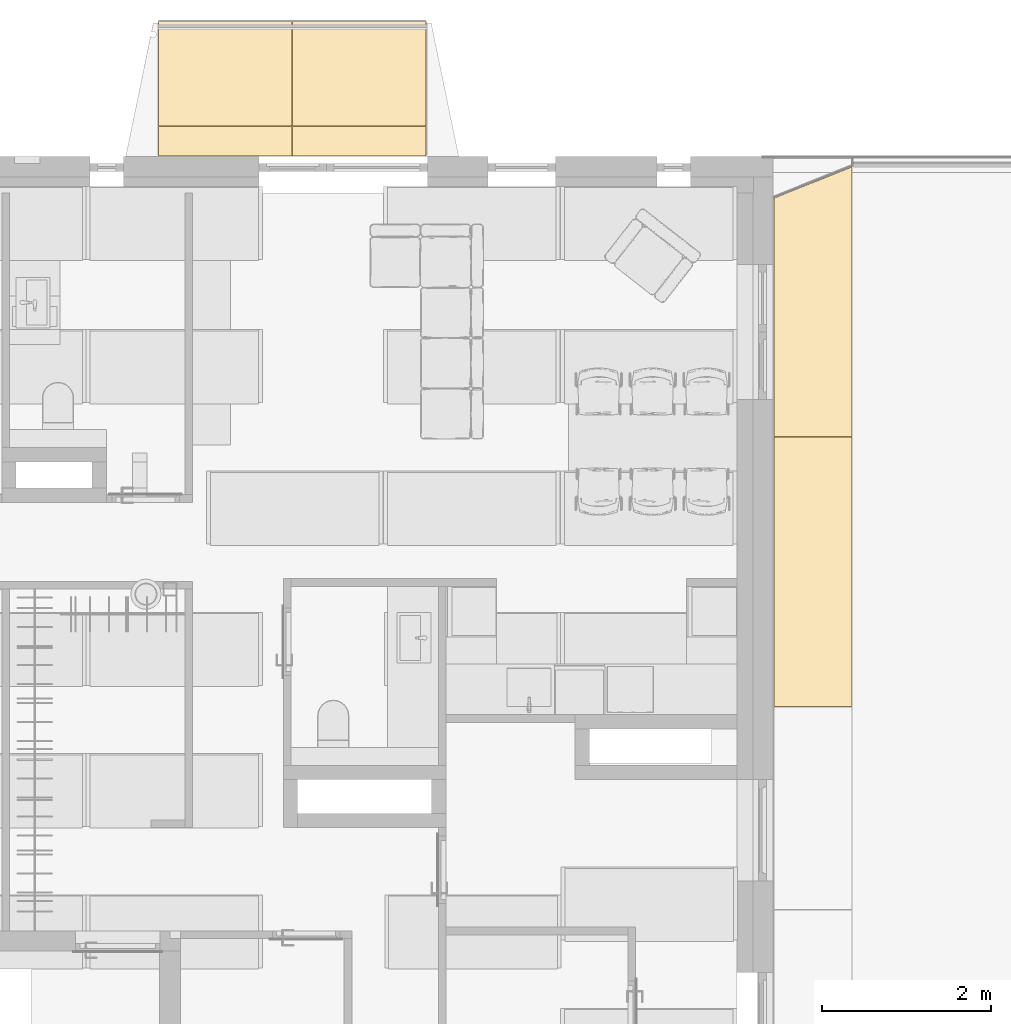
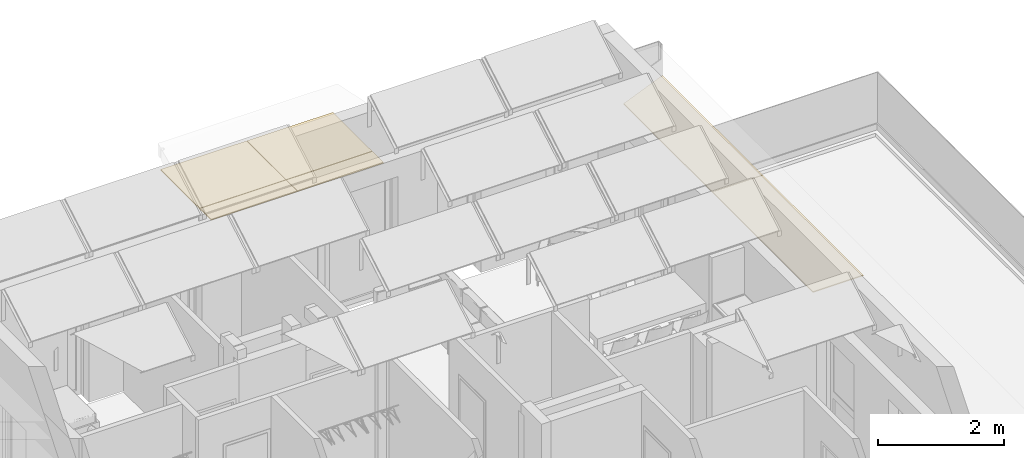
# One storey, part 21 of 57: 6 coverings.
"""IFC2X3 building model written with IfcOpenShell, lengths in millimetres."""

from ifc_helpers import new_model, entity, si_unit, converted_unit, direction, frame, frame_2d, origin, origin_2d_with_axis, place, context, subcontext, project, spatial, polyline, rectangle, outline, extrude, material, layer, layer_set, layer_usage, type_object, element, save


model = new_model("IFC2X3")

# Units and contexts
model_context = context("Model", 3, precision=0.01, world=origin(), true_north=direction((6.123233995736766e-17, 1.0)))
plan_context = context("Plan", 3, precision=0.01, world=origin(), true_north=direction((6.123233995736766e-17, 1.0)))
body_context = subcontext(model_context, "Body", "Model", "MODEL_VIEW")
ifc_project = project(units=[si_unit("LENGTHUNIT", "METRE", prefix="MILLI"), converted_unit("PLANEANGLEUNIT", "DEGREE", entity("IfcPlaneAngleMeasure", 0.017453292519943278), si_unit("PLANEANGLEUNIT", "RADIAN"), dimensions=[0, 0, 0, 0, 0, 0, 0]), si_unit("AREAUNIT", "SQUARE_METRE")], contexts=[model_context, plan_context])

# Site, building, storey
site_placement = place(None, origin())
site = spatial("IfcSite", under=ifc_project, at=site_placement, Name="Default", CompositionType="ELEMENT")
building_placement = place(site_placement, origin())
building = spatial("IfcBuilding", under=site, at=building_placement, CompositionType="ELEMENT")
storey_placement = place(building_placement, frame((0.0, 0.0, 12811.000000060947)))
storey = spatial("IfcBuildingStorey", under=building, at=storey_placement, Name="5K", CompositionType="ELEMENT", Elevation=12811.000000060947)

# Coverings
ifc_material_1 = material(Name="_K. Õhk. Roov. Fassaadikatte alusroov. Horisontaalne. 25 mm")
ifc_layer_1 = layer(ifc_material_1, 16.0)
ifc_material_2 = material(Name="_K. Välisviimistlus. Alumiinium-komposiitplaat")
ifc_layer_2 = layer(ifc_material_2, 4.0)
ifc_layer_set = layer_set([ifc_layer_1, ifc_layer_2], Name="Compound Ceiling:Valge rõdud")
ifc_layer_usage_1 = layer_usage(ifc_layer_set, "AXIS3", "NEGATIVE", 20.0)
covering_type = type_object("IfcCoveringType", Name="Compound Ceiling:Valge rõdud", PredefinedType="CEILING")
covering_1_placement = place(storey_placement, frame((5040.416588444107, 16192.0, 2400.0)))
element("IfcCovering", 1, at=covering_1_placement, inside=storey, type_object=covering_type, material=ifc_layer_usage_1, Name="Compound Ceiling:Valge rõdud", ObjectType="Compound Ceiling:Valge rõdud", PredefinedType="CEILING", context=body_context, shape_type="SweptSolid", body=[
    extrude(rectangle(XDim=1582.2917057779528, YDim=1249.9999999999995, at=frame_2d((-5.684341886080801e-13, -1.1368683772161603e-12), x_axis=(1.0, 0.0))), frame((791.145852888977, 625.0, 0.0)), (0.0, 0.0, 1.0), 19.999999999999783),
])
ifc_layer_usage_2 = layer_usage(ifc_layer_set, "AXIS3", "NEGATIVE", 20.0)
covering_2_placement = place(storey_placement, frame((6627.708294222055, 16192.0, 2400.0)))
element("IfcCovering", 2, at=covering_2_placement, inside=storey, type_object=covering_type, material=ifc_layer_usage_2, Name="Compound Ceiling:Valge rõdud", ObjectType="Compound Ceiling:Valge rõdud", PredefinedType="CEILING", context=body_context, shape_type="SweptSolid", body=[
    extrude(rectangle(XDim=1249.9999999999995, YDim=1582.2917057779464, at=frame_2d((-1.0800249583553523e-12, -5.684341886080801e-13), x_axis=(1.0, 0.0))), frame((791.1458528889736, 625.0, 0.0), z_axis=(0.0, 0.0, 1.0), x_axis=(0.0, 1.0, 0.0)), (0.0, 0.0, 1.0), 19.999999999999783),
])
ifc_layer_usage_3 = layer_usage(ifc_layer_set, "AXIS3", "NEGATIVE", 20.0)
covering_3_placement = place(storey_placement, frame((5040.416588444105, 15838.0, 2400.0)))
element("IfcCovering", 3, at=covering_3_placement, inside=storey, type_object=covering_type, material=ifc_layer_usage_3, Name="Compound Ceiling:Valge rõdud", ObjectType="Compound Ceiling:Valge rõdud", PredefinedType="CEILING", context=body_context, shape_type="SweptSolid", body=[
    extrude(rectangle(XDim=1582.2917057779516, YDim=348.9999999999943, at=origin_2d_with_axis()), frame((791.1458528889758, 174.49999999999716, 0.0)), (0.0, 0.0, 1.0), 19.999999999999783),
])
ifc_layer_usage_4 = layer_usage(ifc_layer_set, "AXIS3", "NEGATIVE", 20.0)
covering_4_placement = place(storey_placement, frame((6627.708294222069, 15838.0, 2400.0)))
element("IfcCovering", 4, at=covering_4_placement, inside=storey, type_object=covering_type, material=ifc_layer_usage_4, Name="Compound Ceiling:Valge rõdud", ObjectType="Compound Ceiling:Valge rõdud", PredefinedType="CEILING", context=body_context, shape_type="SweptSolid", body=[
    extrude(rectangle(XDim=348.9999999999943, YDim=1582.2917057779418, at=frame_2d((-2.1742607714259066e-12, 5.115907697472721e-13), x_axis=(1.0, 0.0))), frame((791.1458528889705, 174.49999999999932, 0.0), z_axis=(0.0, 0.0, 1.0), x_axis=(0.0, 1.0, 0.0)), (0.0, 0.0, 1.0), 19.999999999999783),
])
ifc_layer_usage_5 = layer_usage(ifc_layer_set, "AXIS3", "NEGATIVE", 20.0)
covering_5_placement = place(storey_placement, frame((12338.0, 12512.0, 2400.0)))
element("IfcCovering", 5, at=covering_5_placement, inside=storey, type_object=covering_type, material=ifc_layer_usage_5, Name="Compound Ceiling:Valge rõdud", ObjectType="Compound Ceiling:Valge rõdud", PredefinedType="CEILING", context=body_context, shape_type="SweptSolid", body=[
    extrude(outline(polyline([(-1505.017138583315, -463.5309455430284), (1690.4542384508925, -463.5309455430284), (1319.580038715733, 463.5309455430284), (-1505.017138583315, 463.5309455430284), (-1505.017138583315, -463.5309455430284)])), frame((463.5309455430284, 1505.0171385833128, 0.0), z_axis=(0.0, 0.0, 1.0), x_axis=(0.0, 1.0, 0.0)), (0.0, 0.0, 1.0), 19.999999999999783),
])
ifc_layer_usage_6 = layer_usage(ifc_layer_set, "AXIS3", "NEGATIVE", 20.0)
covering_6_placement = place(storey_placement, frame((12338.0, 9307.0, 2400.0)))
element("IfcCovering", 6, at=covering_6_placement, inside=storey, type_object=covering_type, material=ifc_layer_usage_6, Name="Compound Ceiling:Valge rõdud", ObjectType="Compound Ceiling:Valge rõdud", PredefinedType="CEILING", context=body_context, shape_type="SweptSolid", body=[
    extrude(rectangle(XDim=3200.0, YDim=927.0618910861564, at=origin_2d_with_axis()), frame((463.5309455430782, 1600.0, 0.0), z_axis=(0.0, 0.0, 1.0), x_axis=(0.0, 1.0, 0.0)), (0.0, 0.0, 1.0), 19.999999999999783),
])

save(model, "model.ifc")
